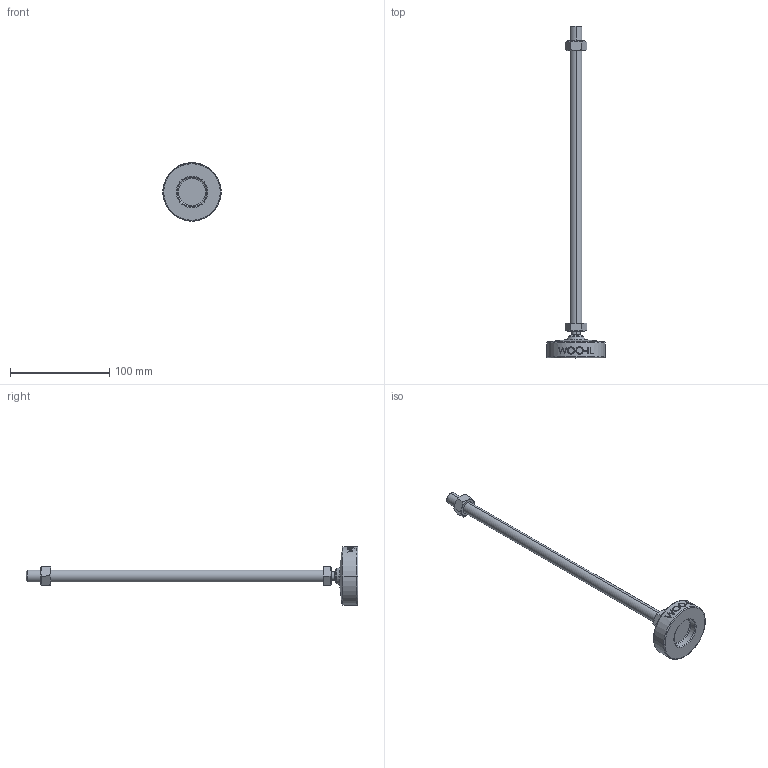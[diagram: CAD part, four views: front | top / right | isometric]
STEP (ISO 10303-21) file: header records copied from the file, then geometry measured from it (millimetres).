
FILE_DESCRIPTION (( 'STEP AP214' ), '1' );
FILE_NAME ('MFN59-M12-300.step', '2021-01-19T06:28:27', ( '' ), ( '' ), 'SwSTEP 2.0', 'SolidWorks 2019', '' );
FILE_SCHEMA (( 'AUTOMOTIVE_DESIGN' ));
Length unit declared in the file: millimetre
Products named in the file (2): MFN59-M12-300
Bounding box: 59 x 335 x 59 mm (x, y, z)
Volume: 81158.6 mm3; surface area: 22860.9 mm2
Topology: 2 solids, 2 shells, 109 faces, 253 edges, 160 vertices
Faces by surface type: plane 47, cone 18, cylinder 18, bspline 16, torus 8, sphere 2
Entity records: 4619 total; most frequent: CARTESIAN_POINT 2194, ORIENTED_EDGE 506, DIRECTION 461, EDGE_CURVE 253, AXIS2_PLACEMENT_3D 179, VERTEX_POINT 160, EDGE_LOOP 123, FACE_OUTER_BOUND 109
